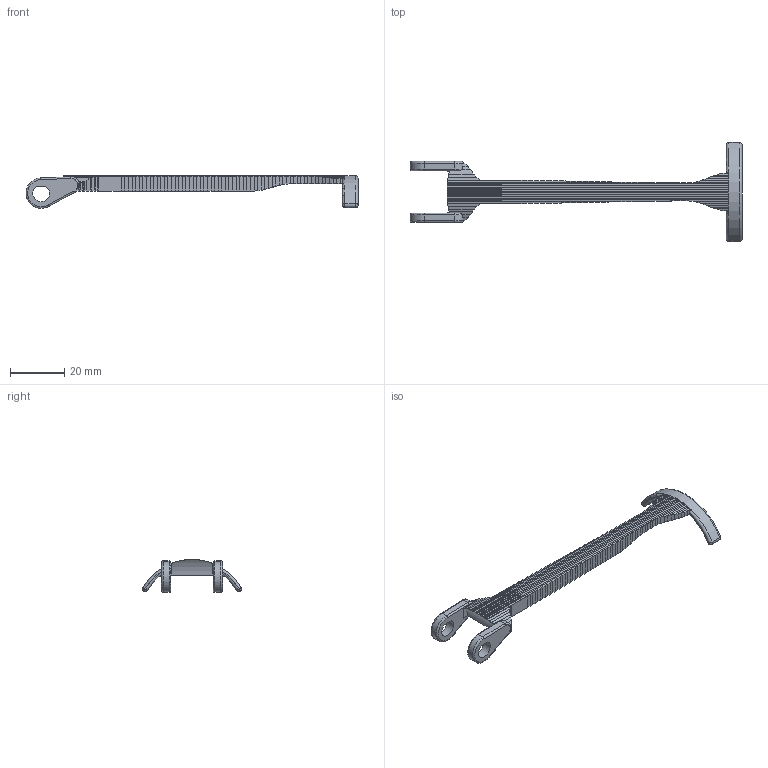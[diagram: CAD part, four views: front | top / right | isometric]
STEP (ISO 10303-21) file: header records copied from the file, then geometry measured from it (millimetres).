
FILE_DESCRIPTION(('Open CASCADE Model'),'2;1');
FILE_NAME('Open CASCADE Shape Model','2026-11-09T05:25:46',('Author'),( 'Open CASCADE'),'Open CASCADE STEP processor 8.0','build123d', 'Unknown');
FILE_SCHEMA(('AUTOMOTIVE_DESIGN { 1 0 10303 214 1 1 1 1 }'));
Length unit declared in the file: millimetre
Products named in the file (1): COMPOUND
Bounding box: 121.9 x 36.38 x 12.1 mm (x, y, z)
Volume: 4364.7 mm3; surface area: 4922.6 mm2
Topology: 1 solids, 1 shells, 462 faces, 1348 edges, 880 vertices
Faces by surface type: plane 410, cylinder 28, torus 16, sphere 8
Entity records: 32826 total; most frequent: CARTESIAN_POINT 8613, DIRECTION 3656, ORIENTED_EDGE 2680, PCURVE 2680, DEFINITIONAL_REPRESENTATION 2680, LINE 2440, VECTOR 2440, B_SPLINE_CURVE_WITH_KNOTS 1400
